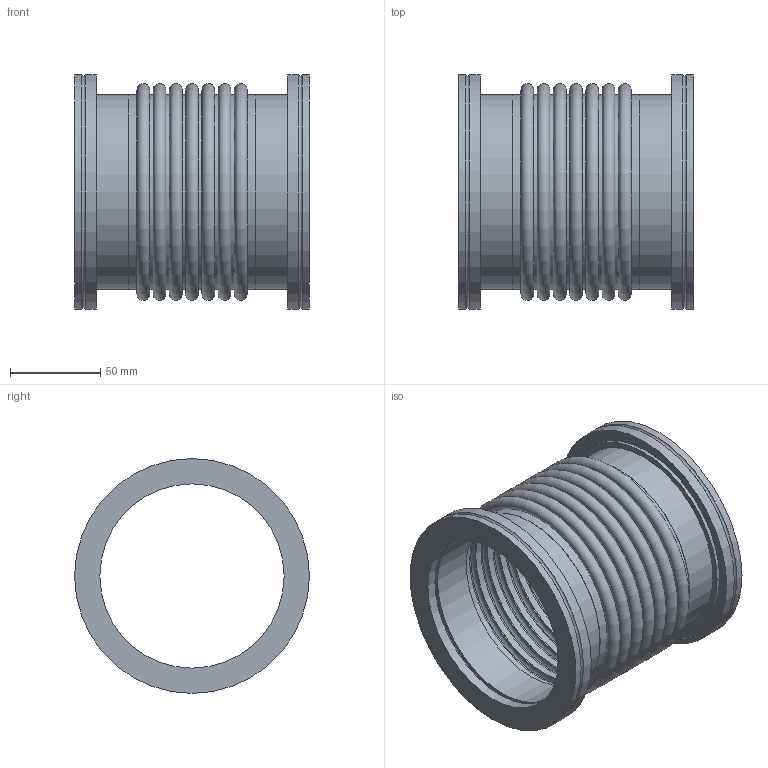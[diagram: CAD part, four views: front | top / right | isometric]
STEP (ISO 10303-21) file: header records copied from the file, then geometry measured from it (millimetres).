
FILE_DESCRIPTION( ( 'Unknown' ), '1' );
FILE_NAME( 'X:/Daten ( aktueller Bestand )/Projekte und Zeichnungen/Solid Edge/STP-Dateien/ISO-K Teile und Zubehör/69924.stp', 'Unknown', ( 'Unknown' ), ( 'Unknown' ), 'PSStep 14.0', 'Unknown', ' ' );
FILE_SCHEMA( ( 'AUTOMOTIVE_DESIGN { 1 0 10303 214 1 1 1 1 }' ) );
Length unit declared in the file: millimetre
Products named in the file (8): 6522-1; 6512; 6992-1; Assem1_0; Assem1
Assembly tree (8 placements, depth 4):
  Assem1
    6992-1
      6992-1
    Assem1_0  x2
      6522-1
        6522-1
      6512
        6512
Bounding box: 130 x 130 x 130 mm (x, y, z)
Volume: 161107 mm3; surface area: 186727.4 mm2
Topology: 5 solids, 5 shells, 66 faces, 124 edges, 74 vertices
Faces by surface type: cylinder 32, plane 16, torus 16, cone 2
Full cylindrical faces by diameter (mm): 102 x4, 107.5 x8, 108 x10, 108.5 x2, 115 x2, 125 x2, 130 x4
Entity records: 1562 total; most frequent: DIRECTION 222, CARTESIAN_POINT 160, AXIS2_PLACEMENT_3D 111, EDGE_LOOP 98, ORIENTED_EDGE 98, FACE_OUTER_BOUND 88, STYLED_ITEM 49, PRESENTATION_STYLE_ASSIGNMENT 49
